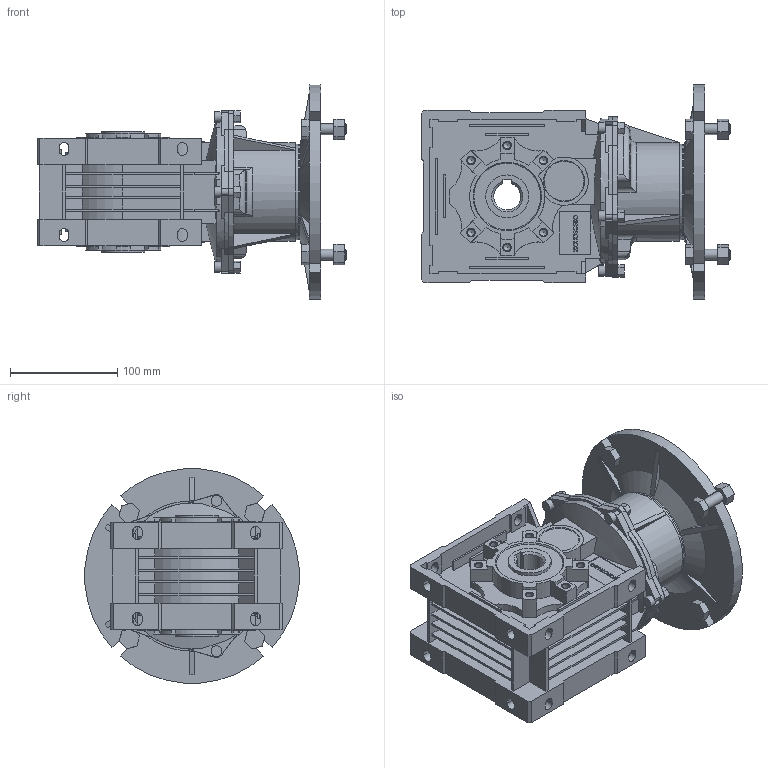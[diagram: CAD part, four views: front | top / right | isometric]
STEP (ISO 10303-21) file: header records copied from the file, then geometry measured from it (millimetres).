
FILE_DESCRIPTION(/* description */ ('STEP AP214'),/* implementation_level */ '2;1');
FILE_NAME(/* name */ 'BA52C90 B5250000NO0NO----(---------------)',/* time_stamp */ '2024-10-30T08:45:09+01:00',/* author */ ('License CC BY-ND 4.0'),/* organization */ ('CADENAS'),/* preprocessor_version */ 'ST-DEVELOPER v19.3',/* originating_system */ 'PARTsolutions',/* authorisation */ ' ');
FILE_SCHEMA (('AUTOMOTIVE_DESIGN {1 0 10303 214 3 1 1}'));
Length unit declared in the file: millimetre
Products named in the file (6): BA52C90 B5250000NO0NO----(---------------); A52-U-40; A52-25-C; A52-BA-24; A52-90 B5-B; BA52-24
Assembly tree (5 placements, depth 2):
  BA52C90 B5250000NO0NO----(---------------)
    A52-U-40
    A52-25-C
    A52-BA-24
    A52-90 B5-B
    BA52-24
Bounding box: 288 x 199.34 x 199.34 mm (x, y, z)
Volume: 2429412 mm3; surface area: 494222.5 mm2
Topology: 5 solids, 5 shells, 969 faces, 2610 edges, 1717 vertices
Faces by surface type: plane 696, cylinder 211, cone 53, torus 9
Full cylindrical faces by diameter (mm): 3.627 x3, 6 x5, 6.647 x12, 10 x13, 13 x6, 35 x1, 40 x2, 52 x2, 57.5 x1, 62 x2, 89 x2, 127.74 x1, 128 x2, 130 x1
Entity records: 36532 total; most frequent: CARTESIAN_POINT 5590, ORIENTED_EDGE 4994, DIRECTION 4851, EDGE_CURVE 2497, LINE 1833, VECTOR 1833, VERTEX_POINT 1703, AXIS2_PLACEMENT_3D 1509
